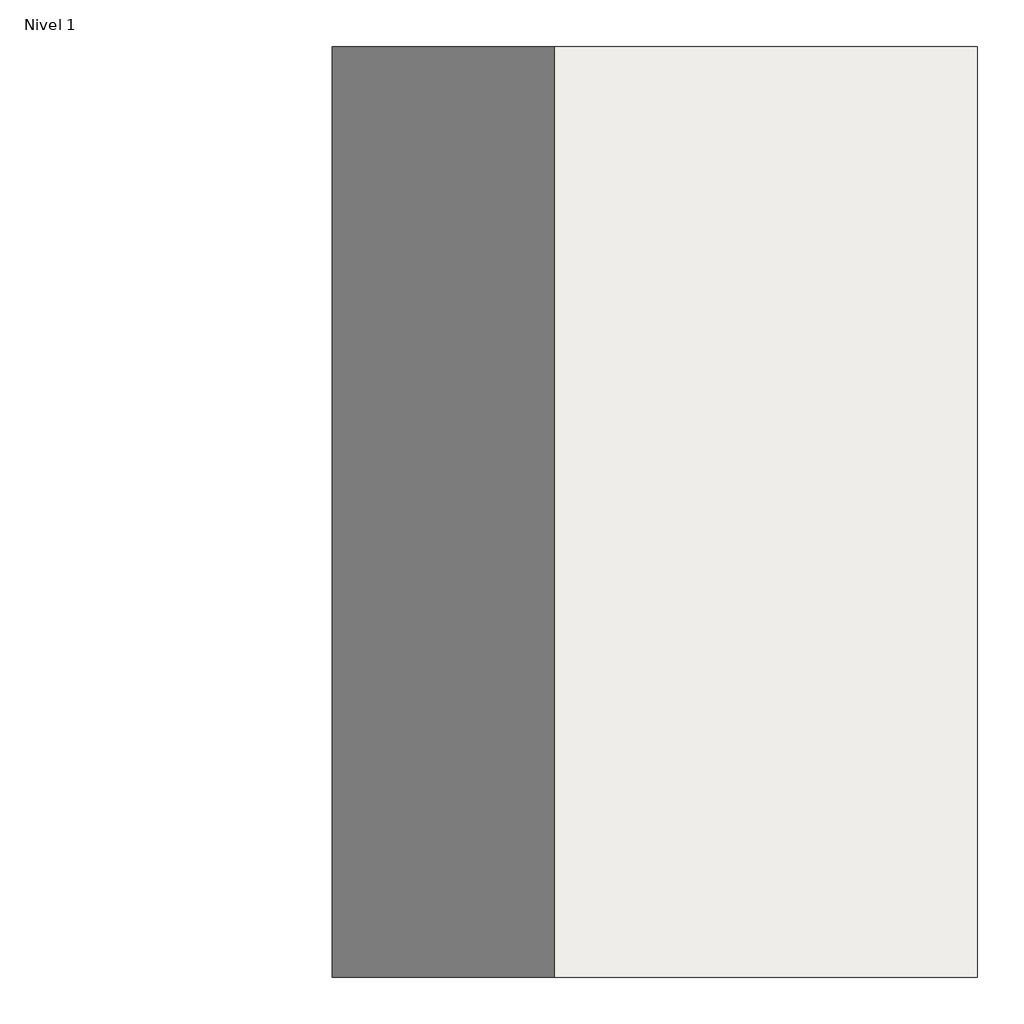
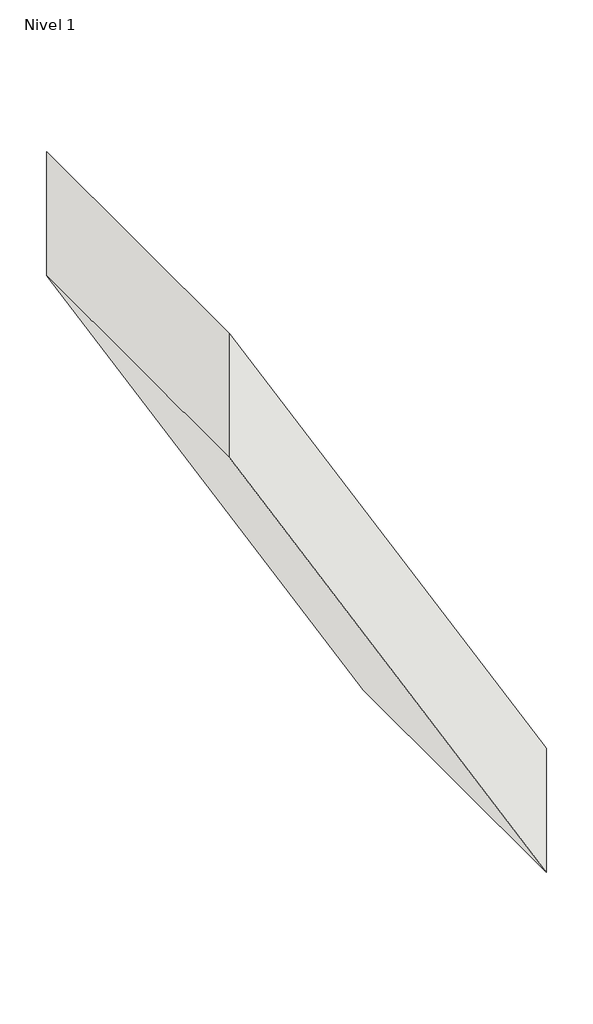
# One storey: 1 roof.
"""IFC4 building model written with IfcOpenShell, lengths in millimetres."""

from ifc_helpers import new_model, si_unit, frame, origin, place, context, project, spatial, polyline, outline, extrude, element, save

model = new_model("IFC4")

# Units and contexts
model_context = context("Model", 3, world=origin())
ifc_project = project(units=[si_unit("LENGTHUNIT", "METRE", prefix="MILLI")], contexts=[model_context])

# Site, building, storey
site = spatial("IfcSite", under=ifc_project)
building = spatial("IfcBuilding", under=site)
storey = spatial("IfcBuildingStorey", under=building, Name="Nivel 1", Elevation=0.0)

# Roof
placement = place(None, origin())
element("IfcRoof", 1, ObjectType="Soporte + Panel sándwich de poliuretano + Rastreles + Pizarra", at=placement, inside=storey, context=model_context, shape_type="SweptSolid", body=[
    extrude(outline(polyline([(414.0, -3013.2553136), (2146.0508076, -4013.2553136), (1732.0508076, -4013.2553136), (0.0, -3013.2553136), (414.0, -3013.2553136)])), frame((0.0, 3631.8256744, 0.0), z_axis=(0.0, 1.0, 0.0), x_axis=(0.0, 0.0, 1.0)), (0.0, 0.0, 1.0), 1000.0),
])

save(model, "model.ifc")
